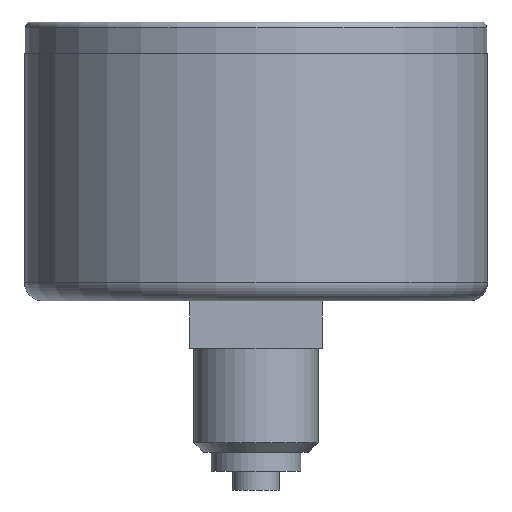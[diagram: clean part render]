
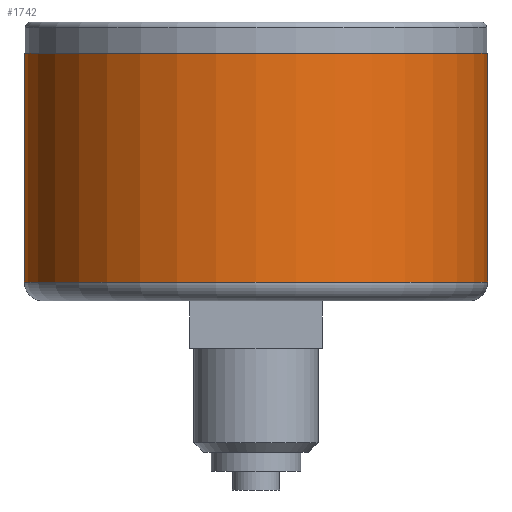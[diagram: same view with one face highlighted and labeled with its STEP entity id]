
A CAD part, front view. The second image highlights one B-rep face of the part: STEP entity #1742.
In plain terms, the highlighted cylindrical face has radius 24.5 mm (diameter 49 mm), a full revolution.
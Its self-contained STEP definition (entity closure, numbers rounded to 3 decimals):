
#39=CYLINDRICAL_SURFACE('',#1912,24.5);
#141=FACE_OUTER_BOUND('',#245,.T.);
#245=EDGE_LOOP('',(#1531,#1532,#1533,#1534,#1535,#1536));
#305=CIRCLE('',#1907,24.5);
#309=CIRCLE('',#1911,24.5);
#310=CIRCLE('',#1913,24.5);
#311=CIRCLE('',#1914,24.5);
#493=LINE('',#2903,#671);
#671=VECTOR('',#2397,24.5);
#827=VERTEX_POINT('',#2889);
#828=VERTEX_POINT('',#2890);
#831=VERTEX_POINT('',#2899);
#832=VERTEX_POINT('',#2900);
#1065=EDGE_CURVE('',#827,#828,#305,.T.);
#1069=EDGE_CURVE('',#828,#827,#309,.T.);
#1070=EDGE_CURVE('',#831,#832,#310,.T.);
#1071=EDGE_CURVE('',#832,#831,#311,.T.);
#1072=EDGE_CURVE('',#832,#828,#493,.T.);
#1531=ORIENTED_EDGE('',*,*,#1070,.F.);
#1532=ORIENTED_EDGE('',*,*,#1071,.F.);
#1533=ORIENTED_EDGE('',*,*,#1072,.T.);
#1534=ORIENTED_EDGE('',*,*,#1065,.F.);
#1535=ORIENTED_EDGE('',*,*,#1069,.F.);
#1536=ORIENTED_EDGE('',*,*,#1072,.F.);
#1742=ADVANCED_FACE('',(#141),#39,.T.);
#1907=AXIS2_PLACEMENT_3D('',#2891,#2381,#2382);
#1911=AXIS2_PLACEMENT_3D('',#2897,#2389,#2390);
#1912=AXIS2_PLACEMENT_3D('',#2898,#2391,#2392);
#1913=AXIS2_PLACEMENT_3D('',#2901,#2393,#2394);
#1914=AXIS2_PLACEMENT_3D('',#2902,#2395,#2396);
#2381=DIRECTION('center_axis',(0.,0.,-1.));
#2382=DIRECTION('ref_axis',(-1.,0.,0.));
#2389=DIRECTION('center_axis',(0.,0.,-1.));
#2390=DIRECTION('ref_axis',(-1.,0.,0.));
#2391=DIRECTION('center_axis',(0.,0.,1.));
#2392=DIRECTION('ref_axis',(1.,0.,0.));
#2393=DIRECTION('center_axis',(0.,0.,1.));
#2394=DIRECTION('ref_axis',(1.,0.,0.));
#2395=DIRECTION('center_axis',(0.,0.,1.));
#2396=DIRECTION('ref_axis',(1.,0.,0.));
#2397=DIRECTION('',(0.,0.,-1.));
#2889=CARTESIAN_POINT('',(24.5,0.,2.));
#2890=CARTESIAN_POINT('',(-24.5,0.,2.));
#2891=CARTESIAN_POINT('Origin',(0.,0.,2.));
#2897=CARTESIAN_POINT('Origin',(0.,0.,2.));
#2898=CARTESIAN_POINT('Origin',(0.,0.,0.));
#2899=CARTESIAN_POINT('',(24.5,0.,26.2));
#2900=CARTESIAN_POINT('',(-24.5,0.,26.2));
#2901=CARTESIAN_POINT('Origin',(0.,0.,26.2));
#2902=CARTESIAN_POINT('Origin',(0.,0.,26.2));
#2903=CARTESIAN_POINT('',(-24.5,0.,0.));
